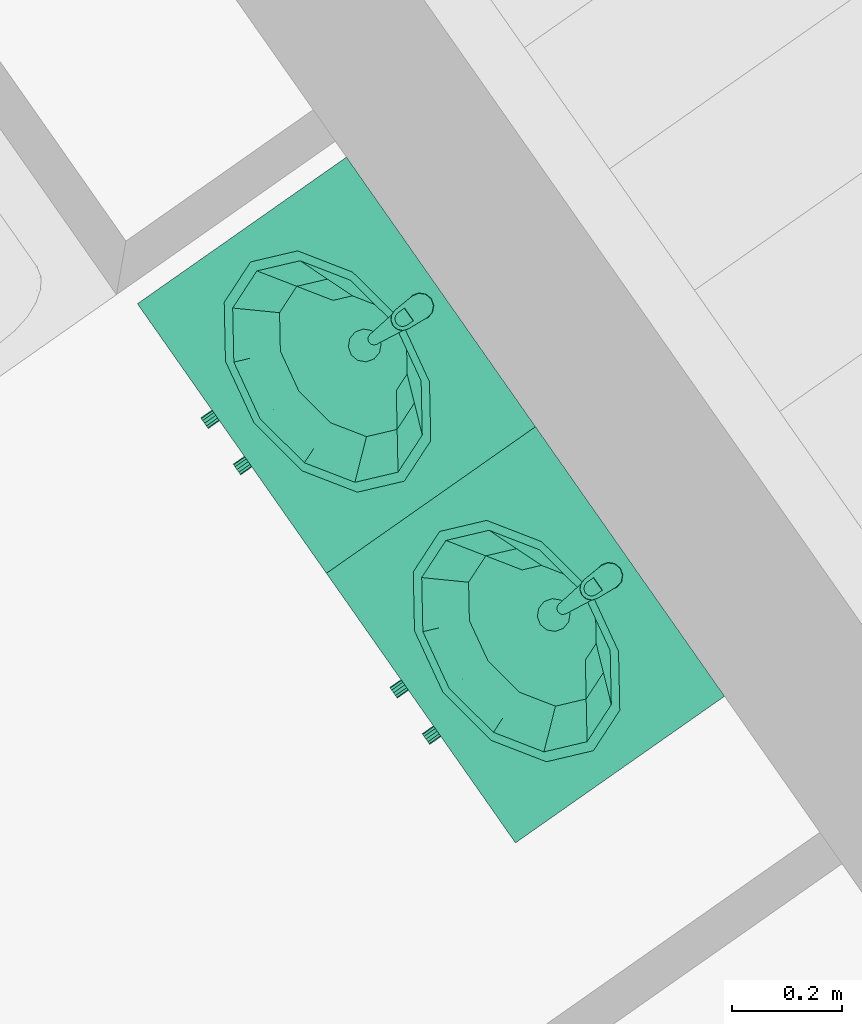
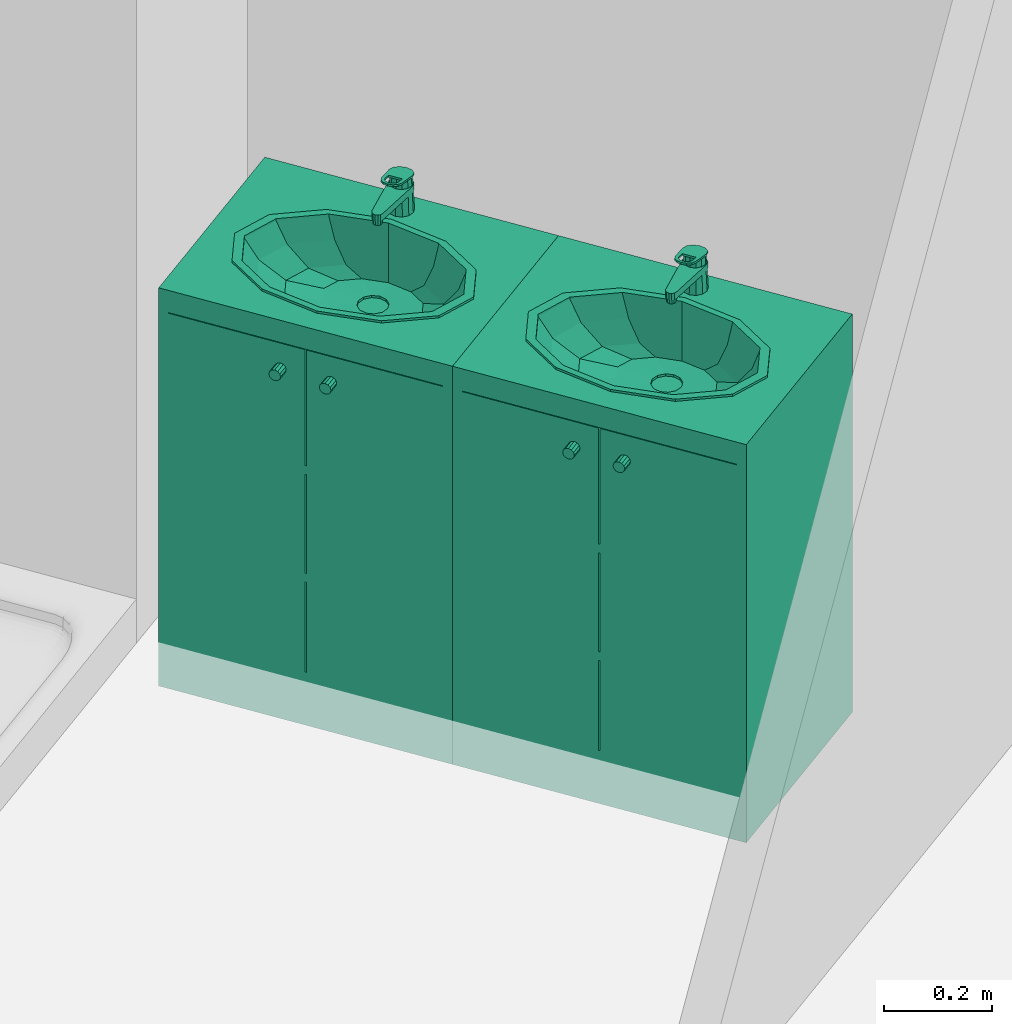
# One storey, part 136 of 195: 2 distribution elements.
"""IFC2X3 building model written with IfcOpenShell, lengths in metres."""

from ifc_helpers import new_model, entity, si_unit, converted_unit, derived_unit, money_unit, direction, frame, origin_with_axes, place, context, subcontext, project, spatial, open_shell, faceted_brep, surface_model, source, transform, mapped, type_object, element, save


model = new_model("IFC2X3")

# Units and contexts
model_context = context("Model", 3, precision=1e-05, world=origin_with_axes(), true_north=direction((0.0, 1.0)))
body_context = subcontext(model_context, "Body", "Model", "MODEL_VIEW")
ifc_project = project(units=[si_unit("LENGTHUNIT", "METRE"), si_unit("AREAUNIT", "SQUARE_METRE"), si_unit("VOLUMEUNIT", "CUBIC_METRE"), converted_unit("PLANEANGLEUNIT", "DEGREE", entity("IfcPlaneAngleMeasure", 0.0174532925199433), si_unit("PLANEANGLEUNIT", "RADIAN"), dimensions=[0, 0, 0, 0, 0, 0, 0]), money_unit("CHF"), converted_unit("TIMEUNIT", "Year", entity("IfcTimeMeasure", 31557600.0), si_unit("TIMEUNIT", "SECOND"), dimensions=[0, 0, 1, 0, 0, 0, 0]), si_unit("MASSUNIT", "GRAM", prefix="KILO"), si_unit("THERMODYNAMICTEMPERATUREUNIT", "DEGREE_CELSIUS"), si_unit("LUMINOUSINTENSITYUNIT", "LUMEN"), si_unit("ENERGYUNIT", "JOULE", prefix="MEGA"), derived_unit("THERMALCONDUCTANCEUNIT", [(si_unit("POWERUNIT", "WATT"), 1), (si_unit("LENGTHUNIT", "METRE"), -1), (si_unit("THERMODYNAMICTEMPERATUREUNIT", "KELVIN"), -1)]), derived_unit("SPECIFICHEATCAPACITYUNIT", [(si_unit("ENERGYUNIT", "JOULE"), 1), (si_unit("MASSUNIT", "GRAM", prefix="KILO"), -1), (si_unit("THERMODYNAMICTEMPERATUREUNIT", "KELVIN"), -1)]), derived_unit("MASSDENSITYUNIT", [(si_unit("MASSUNIT", "GRAM", prefix="KILO"), 1), (si_unit("VOLUMEUNIT", "CUBIC_METRE"), -1)])], contexts=[model_context])

# Site, building, storey
site_placement = place(None, origin_with_axes())
site = spatial("IfcSite", under=ifc_project, at=site_placement, Name="Site", CompositionType="ELEMENT")
building_placement = place(site_placement, origin_with_axes())
building = spatial("IfcBuilding", under=site, at=building_placement, Name="Bâtiment", CompositionType="ELEMENT")
storey_placement = place(building_placement, origin_with_axes())
storey = spatial("IfcBuildingStorey", under=building, at=storey_placement, Name="rdc", CompositionType="ELEMENT", Elevation=0.0)

# Distribution elements
distribution_element_type = type_object("IfcDistributionElementType", Name="Lavabo sur meuble 27")
shared_shape = source(origin_with_axes(), body_context, "Body", "SurfaceModel", [
    faceted_brep([(0.0, 0.0, 0.0), (0.0, 0.0, 0.1), (-0.6, 0.0, 0.1), (-0.6, 0.0, 0.0), (0.0, 0.4653441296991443, 0.0), (0.0, 0.4653441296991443, 0.1), (-0.6, 0.4653441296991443, 0.1), (-0.6, 0.4653441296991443, 0.0)], [[[0, 1, 2, 3]], [[4, 5, 1, 0]], [[1, 5, 6, 2]], [[3, 2, 6, 7]], [[0, 3, 7, 4]], [[7, 6, 5, 4]]]),
    faceted_brep([(0.0, 0.0, 0.1), (0.0, 0.0, 0.12), (-0.02, 0.0, 0.12), (-0.02, 0.0, 0.1), (0.0, 0.4653441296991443, 0.1), (0.0, 0.4653441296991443, 0.12), (-0.02, 0.4653441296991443, 0.12), (-0.58, 0.4653441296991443, 0.12), (-0.6, 0.4653441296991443, 0.12), (-0.6, 0.0, 0.12), (-0.58, 0.0, 0.12), (-0.58, 0.0, 0.1), (-0.6, 0.0, 0.1), (-0.6, 0.4653441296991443, 0.1), (-0.58, 0.4653441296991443, 0.1), (-0.02, 0.4653441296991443, 0.1)], [[[0, 1, 2, 3]], [[4, 5, 1, 0]], [[1, 5, 6, 7, 8, 9, 10, 2]], [[3, 2, 10, 11]], [[0, 3, 11, 12, 13, 14, 15, 4]], [[15, 6, 5, 4]], [[14, 7, 6, 15]], [[13, 8, 7, 14]], [[12, 9, 8, 13]], [[11, 10, 9, 12]]]),
    faceted_brep([(0.0, 0.0, 0.12), (0.0, 0.0, 0.85), (-0.02, 0.0, 0.85), (-0.02, 0.0, 0.12), (0.0, 0.4653441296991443, 0.12), (0.0, 0.4653441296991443, 0.85), (-0.6, 0.4653441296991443, 0.85), (-0.6, 0.0, 0.85), (-0.58, 0.0, 0.85), (-0.58, 0.4453441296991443, 0.85), (-0.02, 0.4453441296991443, 0.85), (-0.02, 0.4453441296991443, 0.12), (-0.58, 0.4453441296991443, 0.12), (-0.58, 0.0, 0.12), (-0.6, 0.0, 0.12), (-0.6, 0.4653441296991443, 0.12)], [[[0, 1, 2, 3]], [[4, 5, 1, 0]], [[1, 5, 6, 7, 8, 9, 10, 2]], [[3, 2, 10, 11]], [[0, 3, 11, 12, 13, 14, 15, 4]], [[15, 6, 5, 4]], [[14, 7, 6, 15]], [[13, 8, 7, 14]], [[12, 9, 8, 13]], [[11, 10, 9, 12]]]),
    faceted_brep([(-0.58, 0.0, 0.3233333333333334), (-0.58, 0.0, 0.3433333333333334), (-0.58, 0.4453441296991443, 0.3433333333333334), (-0.58, 0.4453441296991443, 0.3233333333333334), (-0.02, 0.0, 0.3233333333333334), (-0.02, 0.0, 0.3433333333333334), (-0.02, 0.4453441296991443, 0.3433333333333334), (-0.02, 0.4453441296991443, 0.3233333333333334)], [[[0, 1, 2, 3]], [[4, 5, 1, 0]], [[1, 5, 6, 2]], [[3, 2, 6, 7]], [[0, 3, 7, 4]], [[7, 6, 5, 4]]]),
    faceted_brep([(-0.58, 0.0, 0.5666666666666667), (-0.58, 0.0, 0.5866666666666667), (-0.58, 0.4453441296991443, 0.5866666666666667), (-0.58, 0.4453441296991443, 0.5666666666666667), (-0.02, 0.0, 0.5666666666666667), (-0.02, 0.0, 0.5866666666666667), (-0.02, 0.4453441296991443, 0.5866666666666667), (-0.02, 0.4453441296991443, 0.5666666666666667)], [[[0, 1, 2, 3]], [[4, 5, 1, 0]], [[1, 5, 6, 2]], [[3, 2, 6, 7]], [[0, 3, 7, 4]], [[7, 6, 5, 4]]]),
    faceted_brep([(0.0, 0.4653441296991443, 0.85), (0.0, 0.0, 0.85), (-0.6, 0.0, 0.85), (-0.6, 0.4653441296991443, 0.85), (-0.4124999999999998, 0.08276825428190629, 0.85), (-0.3, 0.06267206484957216, 0.85), (-0.1874999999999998, 0.08276825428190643, 0.85), (-0.1051442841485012, 0.1376720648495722, 0.85), (-0.07499999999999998, 0.2126720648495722, 0.85), (-0.1051442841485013, 0.2876720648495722, 0.85), (-0.1875000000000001, 0.342575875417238, 0.85), (-0.3, 0.3626720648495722, 0.85), (-0.4125, 0.3425758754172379, 0.85), (-0.4948557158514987, 0.2876720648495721, 0.85), (-0.525, 0.2126720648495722, 0.85), (-0.4948557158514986, 0.137672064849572, 0.85), (0.0, 0.4653441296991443, 0.9), (0.0, 0.0, 0.9), (-0.6, 0.0, 0.9), (-0.6, 0.4653441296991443, 0.9), (-0.3, 0.06267206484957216, 0.9), (-0.4124999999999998, 0.08276825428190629, 0.9), (-0.1874999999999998, 0.08276825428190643, 0.9), (-0.1051442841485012, 0.1376720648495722, 0.9), (-0.07499999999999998, 0.2126720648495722, 0.9), (-0.1051442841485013, 0.2876720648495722, 0.9), (-0.1875000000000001, 0.342575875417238, 0.9), (-0.3, 0.3626720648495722, 0.9), (-0.4125, 0.3425758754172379, 0.9), (-0.4948557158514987, 0.2876720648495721, 0.9), (-0.525, 0.2126720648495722, 0.9), (-0.4948557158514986, 0.137672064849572, 0.9)], [[[0, 1, 2, 3], [4, 5, 6, 7, 8, 9, 10, 11, 12, 13, 14, 15]], [[1, 0, 16, 17]], [[2, 1, 17, 18]], [[3, 2, 18, 19]], [[0, 3, 19, 16]], [[20, 5, 4, 21]], [[22, 6, 5, 20]], [[23, 7, 6, 22]], [[24, 8, 7, 23]], [[25, 9, 8, 24]], [[26, 10, 9, 25]], [[27, 11, 10, 26]], [[28, 12, 11, 27]], [[29, 13, 12, 28]], [[30, 14, 13, 29]], [[31, 15, 14, 30]], [[21, 4, 15, 31]], [[18, 17, 16, 19], [28, 27, 26, 25, 24, 23, 22, 20, 21, 31, 30, 29]]]),
    faceted_brep([(-0.544, 0.2126720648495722, 0.905), (-0.511310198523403, 0.2943684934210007, 0.905), (-0.511310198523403, 0.2943684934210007, 0.9), (-0.544, 0.2126720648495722, 0.9), (-0.5113101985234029, 0.1309756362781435, 0.905), (-0.4219999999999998, 0.07116969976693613, 0.905), (-0.3, 0.04927920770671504, 0.905), (-0.1779999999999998, 0.07116969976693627, 0.905), (-0.08868980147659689, 0.1309756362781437, 0.905), (-0.05599999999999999, 0.2126720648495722, 0.905), (-0.088689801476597, 0.2943684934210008, 0.905), (-0.178, 0.3541744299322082, 0.905), (-0.3, 0.3760649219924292, 0.905), (-0.422, 0.3541744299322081, 0.905), (-0.524, 0.2126720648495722, 0.905), (-0.4939896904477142, 0.2876720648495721, 0.905), (-0.412, 0.3425758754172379, 0.905), (-0.3, 0.3626720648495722, 0.905), (-0.1880000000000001, 0.342575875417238, 0.905), (-0.1060103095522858, 0.2876720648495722, 0.905), (-0.07599999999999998, 0.2126720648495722, 0.905), (-0.1060103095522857, 0.1376720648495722, 0.905), (-0.1879999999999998, 0.08276825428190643, 0.905), (-0.3, 0.06267206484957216, 0.905), (-0.4119999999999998, 0.08276825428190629, 0.905), (-0.4939896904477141, 0.137672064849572, 0.905), (-0.422, 0.3541744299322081, 0.9), (-0.3, 0.3760649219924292, 0.9), (-0.178, 0.3541744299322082, 0.9), (-0.088689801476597, 0.2943684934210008, 0.9), (-0.05599999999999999, 0.2126720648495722, 0.9), (-0.08868980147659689, 0.1309756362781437, 0.9), (-0.1779999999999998, 0.07116969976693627, 0.9), (-0.3, 0.04927920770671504, 0.9), (-0.4219999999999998, 0.07116969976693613, 0.9), (-0.5113101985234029, 0.1309756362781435, 0.9), (-0.524, 0.2126720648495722, 0.9), (-0.4939896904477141, 0.137672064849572, 0.9), (-0.4119999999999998, 0.08276825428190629, 0.9), (-0.3, 0.06267206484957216, 0.9), (-0.1879999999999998, 0.08276825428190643, 0.9), (-0.1060103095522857, 0.1376720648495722, 0.9), (-0.07599999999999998, 0.2126720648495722, 0.9), (-0.1060103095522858, 0.2876720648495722, 0.9), (-0.1880000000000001, 0.342575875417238, 0.9), (-0.3, 0.3626720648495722, 0.9), (-0.412, 0.3425758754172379, 0.9), (-0.4939896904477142, 0.2876720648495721, 0.9)], [[[0, 1, 2, 3]], [[0, 4, 5, 6, 7, 8, 9, 10, 11, 12, 13, 1], [14, 15, 16, 17, 18, 19, 20, 21, 22, 23, 24, 25]], [[1, 13, 26, 2]], [[3, 2, 26, 27, 28, 29, 30, 31, 32, 33, 34, 35], [36, 37, 38, 39, 40, 41, 42, 43, 44, 45, 46, 47]], [[4, 0, 3, 35]], [[5, 4, 35, 34]], [[6, 5, 34, 33]], [[7, 6, 33, 32]], [[8, 7, 32, 31]], [[9, 8, 31, 30]], [[10, 9, 30, 29]], [[11, 10, 29, 28]], [[12, 11, 28, 27]], [[13, 12, 27, 26]], [[15, 14, 36, 47]], [[16, 15, 47, 46]], [[17, 16, 46, 45]], [[18, 17, 45, 44]], [[19, 18, 44, 43]], [[20, 19, 43, 42]], [[21, 20, 42, 41]], [[22, 21, 41, 40]], [[23, 22, 40, 39]], [[24, 23, 39, 38]], [[25, 24, 38, 37]], [[14, 25, 37, 36]]]),
    surface_model("IfcShellBasedSurfaceModel", [(-0.3, 0.3626720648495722, 0.9), (-0.412, 0.342575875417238, 0.9), (-0.4008, 0.3445854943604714, 0.848), (-0.3, 0.3626720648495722, 0.848), (-0.4939896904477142, 0.2876720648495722, 0.9), (-0.4745907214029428, 0.2951720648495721, 0.848), (-0.1879999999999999, 0.3425758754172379, 0.9), (-0.1991999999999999, 0.3445854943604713, 0.848), (-0.524, 0.2126720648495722, 0.9), (-0.5016, 0.2276720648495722, 0.848), (-0.1060103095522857, 0.2876720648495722, 0.9), (-0.1254092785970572, 0.2951720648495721, 0.848), (-0.4939896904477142, 0.1376720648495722, 0.9), (-0.4745907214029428, 0.1601720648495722, 0.848), (-0.07599999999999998, 0.2126720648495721, 0.9), (-0.09839999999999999, 0.2276720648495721, 0.848), (-0.412, 0.08276825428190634, 0.9), (-0.4008, 0.1107586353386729, 0.848), (-0.1060103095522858, 0.1376720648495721, 0.9), (-0.1254092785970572, 0.1601720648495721, 0.848), (-0.3, 0.06267206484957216, 0.9), (-0.3, 0.09267206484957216, 0.848), (-0.1879999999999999, 0.08276825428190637, 0.9), (-0.1992, 0.110758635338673, 0.848)], [open_shell([[[0, 1, 2, 3]], [[1, 4, 5, 2]], [[6, 0, 3, 7]], [[4, 8, 9, 5]], [[10, 6, 7, 11]], [[8, 12, 13, 9]], [[14, 10, 11, 15]], [[12, 16, 17, 13]], [[18, 14, 15, 19]], [[16, 20, 21, 17]], [[22, 18, 19, 23]], [[20, 22, 23, 21]]])]),
    surface_model("IfcShellBasedSurfaceModel", [(-0.3, 0.3626720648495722, 0.848), (-0.4008, 0.3445854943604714, 0.848), (-0.379632, 0.3483836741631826, 0.7959999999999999), (-0.3, 0.3626720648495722, 0.7959999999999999), (-0.4745907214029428, 0.2951720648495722, 0.848), (-0.4379266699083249, 0.3093470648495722, 0.7959999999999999), (-0.1991999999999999, 0.3445854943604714, 0.848), (-0.2203679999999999, 0.3483836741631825, 0.7959999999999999), (-0.5016, 0.2276720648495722, 0.848), (-0.459264, 0.2560220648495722, 0.7959999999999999), (-0.1254092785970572, 0.2951720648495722, 0.848), (-0.1620733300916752, 0.3093470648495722, 0.7959999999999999), (-0.4745907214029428, 0.1601720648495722, 0.848), (-0.4379266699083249, 0.2026970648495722, 0.7959999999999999), (-0.09839999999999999, 0.2276720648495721, 0.848), (-0.140736, 0.2560220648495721, 0.7959999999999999), (-0.4008, 0.1107586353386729, 0.848), (-0.379632, 0.1636604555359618, 0.7959999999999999), (-0.1254092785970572, 0.1601720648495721, 0.848), (-0.1620733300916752, 0.2026970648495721, 0.7959999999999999), (-0.3, 0.09267206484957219, 0.848), (-0.3, 0.1493720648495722, 0.7959999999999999), (-0.1992, 0.110758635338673, 0.848), (-0.220368, 0.1636604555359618, 0.7959999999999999)], [open_shell([[[0, 1, 2, 3]], [[1, 4, 5, 2]], [[6, 0, 3, 7]], [[4, 8, 9, 5]], [[10, 6, 7, 11]], [[8, 12, 13, 9]], [[14, 10, 11, 15]], [[12, 16, 17, 13]], [[18, 14, 15, 19]], [[16, 20, 21, 17]], [[22, 18, 19, 23]], [[20, 22, 23, 21]]])]),
    surface_model("IfcShellBasedSurfaceModel", [(-0.3, 0.3626720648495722, 0.7959999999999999), (-0.379632, 0.3483836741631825, 0.7959999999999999), (-0.35016816, 0.3536703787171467, 0.7699999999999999), (-0.3, 0.3626720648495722, 0.7699999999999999), (-0.4379266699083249, 0.3093470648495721, 0.7959999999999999), (-0.3868938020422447, 0.3290773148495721, 0.7699999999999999), (-0.2203679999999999, 0.3483836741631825, 0.7959999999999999), (-0.2498318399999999, 0.3536703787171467, 0.7699999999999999), (-0.459264, 0.2560220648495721, 0.7959999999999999), (-0.40033632, 0.2954825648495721, 0.7699999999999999), (-0.1620733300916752, 0.3093470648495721, 0.7959999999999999), (-0.2131061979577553, 0.3290773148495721, 0.7699999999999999), (-0.4379266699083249, 0.2026970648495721, 0.7959999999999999), (-0.3868938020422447, 0.2618878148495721, 0.7699999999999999), (-0.140736, 0.2560220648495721, 0.7959999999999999), (-0.19966368, 0.2954825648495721, 0.7699999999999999), (-0.379632, 0.1636604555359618, 0.7959999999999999), (-0.35016816, 0.2372947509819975, 0.7699999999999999), (-0.1620733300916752, 0.2026970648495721, 0.7959999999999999), (-0.2131061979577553, 0.2618878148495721, 0.7699999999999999), (-0.3, 0.1493720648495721, 0.7959999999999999), (-0.3, 0.2282930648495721, 0.7699999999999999), (-0.220368, 0.1636604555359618, 0.7959999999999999), (-0.24983184, 0.2372947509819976, 0.7699999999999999)], [open_shell([[[0, 1, 2, 3]], [[1, 4, 5, 2]], [[6, 0, 3, 7]], [[4, 8, 9, 5]], [[10, 6, 7, 11]], [[8, 12, 13, 9]], [[14, 10, 11, 15]], [[12, 16, 17, 13]], [[18, 14, 15, 19]], [[16, 20, 21, 17]], [[22, 18, 19, 23]], [[20, 22, 23, 21]]])]),
    surface_model("IfcShellBasedSurfaceModel", [(-0.3, 0.3626720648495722, 0.7699999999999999), (-0.35016816, 0.3536703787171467, 0.7699999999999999), (-0.315, 0.3214633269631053, 0.7629999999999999), (-0.3259807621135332, 0.3104825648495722, 0.7629999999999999), (-0.3, 0.3254825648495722, 0.7629999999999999), (-0.3868938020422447, 0.3290773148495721, 0.7699999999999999), (-0.2498318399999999, 0.3536703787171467, 0.7699999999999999), (-0.33, 0.2954825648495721, 0.7629999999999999), (-0.285, 0.3214633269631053, 0.7629999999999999), (-0.40033632, 0.2954825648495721, 0.7699999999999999), (-0.2131061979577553, 0.3290773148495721, 0.7699999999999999), (-0.3259807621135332, 0.2804825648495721, 0.7629999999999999), (-0.2740192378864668, 0.3104825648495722, 0.7629999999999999), (-0.3868938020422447, 0.2618878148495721, 0.7699999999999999), (-0.19966368, 0.2954825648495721, 0.7699999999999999), (-0.315, 0.269501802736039, 0.7629999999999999), (-0.27, 0.2954825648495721, 0.7629999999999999), (-0.35016816, 0.2372947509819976, 0.7699999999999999), (-0.2131061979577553, 0.2618878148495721, 0.7699999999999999), (-0.3, 0.2654825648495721, 0.7629999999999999), (-0.2740192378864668, 0.2804825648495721, 0.7629999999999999), (-0.3, 0.2282930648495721, 0.7699999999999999), (-0.24983184, 0.2372947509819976, 0.7699999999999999), (-0.285, 0.269501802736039, 0.7629999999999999)], [open_shell([[[0, 1, 2]], [[1, 3, 2]], [[0, 2, 4]], [[1, 5, 3]], [[6, 0, 4]], [[5, 7, 3]], [[6, 4, 8]], [[5, 9, 7]], [[10, 6, 8]], [[9, 11, 7]], [[10, 8, 12]], [[9, 13, 11]], [[14, 10, 12]], [[13, 15, 11]], [[14, 12, 16]], [[13, 17, 15]], [[18, 14, 16]], [[17, 19, 15]], [[18, 16, 20]], [[17, 21, 19]], [[22, 18, 20]], [[21, 23, 19]], [[22, 20, 23]], [[21, 22, 23]]])]),
    surface_model("IfcShellBasedSurfaceModel", [(-0.33, 0.2954825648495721, 0.763), (-0.3259807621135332, 0.3104825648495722, 0.763), (-0.3259807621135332, 0.3104825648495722, 0.758), (-0.33, 0.2954825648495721, 0.758), (-0.315, 0.3214633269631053, 0.763), (-0.315, 0.3214633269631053, 0.758), (-0.3, 0.3254825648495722, 0.758), (-0.285, 0.3214633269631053, 0.758), (-0.2740192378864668, 0.3104825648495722, 0.758), (-0.27, 0.2954825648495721, 0.758), (-0.2740192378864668, 0.2804825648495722, 0.758), (-0.285, 0.269501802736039, 0.758), (-0.3, 0.2654825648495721, 0.758), (-0.3149999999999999, 0.269501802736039, 0.758), (-0.3259807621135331, 0.2804825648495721, 0.758), (-0.3259807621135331, 0.2804825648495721, 0.763), (-0.3, 0.3254825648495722, 0.763), (-0.285, 0.3214633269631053, 0.763), (-0.2740192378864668, 0.3104825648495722, 0.763), (-0.27, 0.2954825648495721, 0.763), (-0.2740192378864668, 0.2804825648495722, 0.763), (-0.285, 0.269501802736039, 0.763), (-0.3, 0.2654825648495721, 0.763), (-0.3149999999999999, 0.269501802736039, 0.763)], [open_shell([[[0, 1, 2, 3]], [[1, 4, 5, 2]], [[3, 2, 5, 6, 7, 8, 9, 10, 11, 12, 13, 14]], [[15, 0, 3, 14]], [[4, 16, 6, 5]], [[16, 17, 7, 6]], [[17, 18, 8, 7]], [[18, 19, 9, 8]], [[19, 20, 10, 9]], [[20, 21, 11, 10]], [[21, 22, 12, 11]], [[22, 23, 13, 12]], [[23, 15, 14, 13]]])]),
    faceted_brep([(-0.3125, 0.4406587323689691, 0.9), (-0.310587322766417, 0.4373458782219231, 0.976507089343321), (-0.3, 0.4402100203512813, 0.9759615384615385), (-0.3, 0.4440080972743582, 0.9), (-0.3216506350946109, 0.4315080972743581, 0.9), (-0.3182735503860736, 0.4295583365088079, 0.9779904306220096), (-0.321, 0.4190080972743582, 0.98), (-0.3181003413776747, 0.4085578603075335, 0.9819905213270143), (-0.3104141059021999, 0.400970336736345, 0.9834357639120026), (-0.3, 0.3982062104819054, 0.9839622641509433), (-0.2895858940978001, 0.400970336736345, 0.9834357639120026), (-0.2818996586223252, 0.4085578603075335, 0.9819905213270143), (-0.279, 0.4190080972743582, 0.98), (-0.2817264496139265, 0.4295583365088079, 0.9779904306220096), (-0.289412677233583, 0.4373458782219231, 0.976507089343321), (-0.2875, 0.4406587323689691, 0.9), (-0.278349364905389, 0.4315080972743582, 0.9), (-0.275, 0.4190080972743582, 0.9), (-0.278349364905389, 0.4065080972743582, 0.9), (-0.2875, 0.3973574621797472, 0.9), (-0.3, 0.3940080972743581, 0.9), (-0.3125, 0.3973574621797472, 0.9), (-0.3216506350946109, 0.4065080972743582, 0.9), (-0.325, 0.4190080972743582, 0.9)], [[[0, 1, 2, 3]], [[4, 5, 1, 0]], [[1, 5, 6, 7, 8, 9, 10, 11, 12, 13, 14, 2]], [[3, 2, 14, 15]], [[0, 3, 15, 16, 17, 18, 19, 20, 21, 22, 23, 4]], [[23, 6, 5, 4]], [[22, 7, 6, 23]], [[21, 8, 7, 22]], [[20, 9, 8, 21]], [[19, 10, 9, 20]], [[18, 11, 10, 19]], [[17, 12, 11, 18]], [[16, 13, 12, 17]], [[15, 14, 13, 16]]]),
    faceted_brep([(-0.309, 0.3160080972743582, 0.935), (-0.309, 0.3160080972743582, 0.9450000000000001), (-0.3077942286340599, 0.3205080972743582, 0.9450000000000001), (-0.3077942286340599, 0.3205080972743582, 0.935), (-0.3077942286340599, 0.3115080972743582, 0.935), (-0.3077942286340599, 0.3115080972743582, 0.9450000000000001), (-0.3045, 0.3082138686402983, 0.9450000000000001), (-0.3, 0.3070080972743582, 0.9450000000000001), (-0.2955, 0.3082138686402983, 0.9450000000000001), (-0.2922057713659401, 0.3115080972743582, 0.9450000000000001), (-0.291, 0.3160080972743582, 0.9450000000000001), (-0.2922057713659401, 0.3205080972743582, 0.9450000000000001), (-0.2955, 0.3238023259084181, 0.9450000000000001), (-0.3, 0.3250080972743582, 0.9450000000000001), (-0.3045, 0.3238023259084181, 0.9450000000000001), (-0.3045, 0.3238023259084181, 0.935), (-0.3, 0.3250080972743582, 0.935), (-0.2955, 0.3238023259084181, 0.935), (-0.2922057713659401, 0.3205080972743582, 0.935), (-0.291, 0.3160080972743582, 0.935), (-0.2922057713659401, 0.3115080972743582, 0.935), (-0.2955, 0.3082138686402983, 0.935), (-0.3, 0.3070080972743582, 0.935), (-0.3045, 0.3082138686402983, 0.935)], [[[0, 1, 2, 3]], [[4, 5, 1, 0]], [[1, 5, 6, 7, 8, 9, 10, 11, 12, 13, 14, 2]], [[3, 2, 14, 15]], [[0, 3, 15, 16, 17, 18, 19, 20, 21, 22, 23, 4]], [[23, 6, 5, 4]], [[22, 7, 6, 23]], [[21, 8, 7, 22]], [[20, 9, 8, 21]], [[19, 10, 9, 20]], [[18, 11, 10, 19]], [[17, 12, 11, 18]], [[16, 13, 12, 17]], [[15, 14, 13, 16]]]),
    faceted_brep([(-0.2871282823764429, 0.439264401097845, 0.9600000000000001), (-0.300000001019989, 0.44300807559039, 0.9600000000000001), (-0.3128717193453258, 0.4392644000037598, 0.9600000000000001), (-0.3217278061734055, 0.4292013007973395, 0.9600000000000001), (-0.3238053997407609, 0.4159581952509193, 0.9600000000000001), (-0.310912, 0.3146197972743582, 0.9600000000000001), (-0.309028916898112, 0.3097249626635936, 0.9600000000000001), (-0.3050933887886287, 0.3062584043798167, 0.9600000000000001), (-0.300000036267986, 0.305008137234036, 0.9600000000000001), (-0.2949066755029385, 0.3062583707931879, 0.9600000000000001), (-0.2909711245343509, 0.3097249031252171, 0.9600000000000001), (-0.2890880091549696, 0.3146197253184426, 0.9600000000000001), (-0.2761946, 0.4159581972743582, 0.9600000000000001), (-0.2782721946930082, 0.4292013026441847, 0.9600000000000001), (-0.311, 0.4380606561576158, 0.9600000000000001), (-0.3, 0.4410080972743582, 0.9600000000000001), (-0.289, 0.4380606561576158, 0.9600000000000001), (-0.2809474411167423, 0.4300080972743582, 0.9600000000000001), (-0.278, 0.4190080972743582, 0.9600000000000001), (-0.2809474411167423, 0.4080080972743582, 0.9600000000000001), (-0.289, 0.3999555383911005, 0.9600000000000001), (-0.3, 0.3970080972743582, 0.9600000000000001), (-0.3109999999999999, 0.3999555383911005, 0.9600000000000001), (-0.3190525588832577, 0.4080080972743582, 0.9600000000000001), (-0.322, 0.4190080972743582, 0.9600000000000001), (-0.3190525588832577, 0.4300080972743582, 0.9600000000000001), (-0.2871282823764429, 0.439264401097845, 0.9450000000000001), (-0.300000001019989, 0.44300807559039, 0.9450000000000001), (-0.3128717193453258, 0.4392644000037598, 0.9450000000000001), (-0.3217278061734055, 0.4292013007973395, 0.9450000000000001), (-0.3238053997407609, 0.4159581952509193, 0.9450000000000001), (-0.310912, 0.3146197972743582, 0.9450000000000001), (-0.309028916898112, 0.3097249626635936, 0.9450000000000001), (-0.3050933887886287, 0.3062584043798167, 0.9450000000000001), (-0.300000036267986, 0.305008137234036, 0.9450000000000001), (-0.2949066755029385, 0.3062583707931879, 0.9450000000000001), (-0.2909711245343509, 0.3097249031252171, 0.9450000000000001), (-0.2890880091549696, 0.3146197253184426, 0.9450000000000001), (-0.2761946, 0.4159581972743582, 0.9450000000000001), (-0.2782721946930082, 0.4292013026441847, 0.9450000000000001), (-0.3, 0.4417580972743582, 0.9450000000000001), (-0.311375, 0.4387101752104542, 0.9450000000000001), (-0.288625, 0.4387101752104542, 0.9450000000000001), (-0.280297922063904, 0.4303830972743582, 0.9450000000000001), (-0.2772499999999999, 0.4190080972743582, 0.9450000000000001), (-0.280297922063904, 0.4076330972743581, 0.9450000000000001), (-0.288625, 0.3993060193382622, 0.9450000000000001), (-0.3, 0.3962580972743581, 0.9450000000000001), (-0.311375, 0.3993060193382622, 0.9450000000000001), (-0.319702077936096, 0.4076330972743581, 0.9450000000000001), (-0.32275, 0.4190080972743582, 0.9450000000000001), (-0.319702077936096, 0.4303830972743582, 0.9450000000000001)], [[[0, 1, 2, 3, 4, 5, 6, 7, 8, 9, 10, 11, 12, 13], [14, 15, 16, 17, 18, 19, 20, 21, 22, 23, 24, 25]], [[26, 27, 1, 0]], [[27, 28, 2, 1]], [[28, 29, 3, 2]], [[29, 30, 4, 3]], [[30, 31, 5, 4]], [[31, 32, 6, 5]], [[32, 33, 7, 6]], [[33, 34, 8, 7]], [[34, 35, 9, 8]], [[35, 36, 10, 9]], [[36, 37, 11, 10]], [[37, 38, 12, 11]], [[38, 39, 13, 12]], [[39, 26, 0, 13]], [[40, 15, 14, 41]], [[42, 16, 15, 40]], [[16, 42, 43, 17]], [[17, 43, 44, 18]], [[18, 44, 45, 19]], [[19, 45, 46, 20]], [[20, 46, 47, 21]], [[48, 22, 21, 47]], [[49, 23, 22, 48]], [[50, 24, 23, 49]], [[51, 25, 24, 50]], [[41, 14, 25, 51]], [[34, 33, 32, 31, 30, 29, 28, 27, 26, 39, 38, 37, 36, 35], [48, 47, 46, 45, 44, 43, 42, 40, 41, 51, 50, 49]]]),
    faceted_brep([(-0.323893, 0.4173155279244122, 0.9803223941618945), (-0.323893, 0.4180639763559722, 0.9842517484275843), (-0.3212964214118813, 0.4305312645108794, 0.9818770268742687), (-0.3212964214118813, 0.4297828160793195, 0.9779476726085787), (-0.3209459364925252, 0.377171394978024, 0.9879688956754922), (-0.3209459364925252, 0.377919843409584, 0.9918982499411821), (-0.317663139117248, 0.3682421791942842, 0.9937416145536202), (-0.3100614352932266, 0.3612927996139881, 0.995065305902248), (-0.2999995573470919, 0.3587709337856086, 0.9955456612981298), (-0.289937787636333, 0.3612932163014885, 0.9950652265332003), (-0.2823363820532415, 0.3682429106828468, 0.9937414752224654), (-0.279054, 0.3779207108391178, 0.991898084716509), (-0.2761069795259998, 0.4180642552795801, 0.9842516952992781), (-0.2787037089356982, 0.4305315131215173, 0.9818769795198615), (-0.2875283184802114, 0.4398477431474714, 0.9801024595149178), (-0.3000001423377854, 0.4432885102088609, 0.9794470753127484), (-0.3124719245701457, 0.4398475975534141, 0.9801024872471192), (-0.314, 0.3942157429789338, 0.9887942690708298), (-0.286, 0.3942157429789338, 0.9887942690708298), (-0.286, 0.3794001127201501, 0.9916162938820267), (-0.2878756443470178, 0.3725237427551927, 0.9929260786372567), (-0.293, 0.3674898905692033, 0.9938849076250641), (-0.3, 0.3656473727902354, 0.9942358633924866), (-0.307, 0.3674898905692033, 0.9938849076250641), (-0.3121243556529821, 0.3725237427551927, 0.9929260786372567), (-0.314, 0.3794001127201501, 0.9916162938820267), (-0.3124719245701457, 0.4390991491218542, 0.9761731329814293), (-0.3000001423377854, 0.4425400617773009, 0.9755177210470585), (-0.2875283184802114, 0.4390992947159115, 0.976173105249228), (-0.2787037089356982, 0.4297830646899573, 0.9779476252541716), (-0.2761069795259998, 0.4173158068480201, 0.9803223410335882), (-0.279054, 0.3771722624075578, 0.9879687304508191), (-0.2823363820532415, 0.3674944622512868, 0.9898121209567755), (-0.289937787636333, 0.3605447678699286, 0.9911358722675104), (-0.2999995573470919, 0.3580224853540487, 0.9916163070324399), (-0.3100614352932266, 0.3605443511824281, 0.9911359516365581), (-0.317663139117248, 0.3674937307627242, 0.9898122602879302), (-0.314, 0.3934672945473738, 0.9848649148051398), (-0.314, 0.37865166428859, 0.9876869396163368), (-0.3121243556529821, 0.3717752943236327, 0.9889967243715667), (-0.307, 0.3667414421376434, 0.9899555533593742), (-0.3, 0.3648989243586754, 0.9903065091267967), (-0.293, 0.3667414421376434, 0.9899555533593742), (-0.2878756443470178, 0.3717752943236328, 0.9889967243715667), (-0.286, 0.37865166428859, 0.9876869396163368), (-0.286, 0.3934672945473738, 0.9848649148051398)], [[[0, 1, 2, 3]], [[4, 5, 1, 0]], [[1, 5, 6, 7, 8, 9, 10, 11, 12, 13, 14, 15, 16, 2], [17, 18, 19, 20, 21, 22, 23, 24, 25]], [[3, 2, 16, 26]], [[0, 3, 26, 27, 28, 29, 30, 31, 32, 33, 34, 35, 36, 4], [37, 38, 39, 40, 41, 42, 43, 44, 45]], [[36, 6, 5, 4]], [[35, 7, 6, 36]], [[34, 8, 7, 35]], [[33, 9, 8, 34]], [[32, 10, 9, 33]], [[31, 11, 10, 32]], [[30, 12, 11, 31]], [[29, 13, 12, 30]], [[28, 14, 13, 29]], [[27, 15, 14, 28]], [[26, 16, 15, 27]], [[45, 18, 17, 37]], [[44, 19, 18, 45]], [[43, 20, 19, 44]], [[42, 21, 20, 43]], [[41, 22, 21, 42]], [[40, 23, 22, 41]], [[39, 24, 23, 40]], [[38, 25, 24, 39]], [[37, 17, 25, 38]]]),
    surface_model("IfcShellBasedSurfaceModel", [(-0.001500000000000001, 0.0, 0.1015), (-0.2985, 0.0, 0.1015), (-0.2985, 0.0, 0.8485), (-0.001500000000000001, 0.0, 0.8485)], [open_shell([[[0, 1, 2, 3]]])]),
    faceted_brep([(-0.2588923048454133, 0.0, 0.7855), (-0.2605, 0.0, 0.7915), (-0.2588923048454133, 0.0, 0.7975), (-0.2545, 0.0, 0.8018923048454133), (-0.2485, 0.0, 0.8035), (-0.2425, 0.0, 0.8018923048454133), (-0.2381076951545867, 0.0, 0.7975), (-0.2365, 0.0, 0.7915), (-0.2381076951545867, 0.0, 0.7855), (-0.2425, 0.0, 0.7811076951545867), (-0.2485, 0.0, 0.7795), (-0.2545, 0.0, 0.7811076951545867), (-0.2588923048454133, -0.025, 0.7855), (-0.2605, -0.025, 0.7915), (-0.2588923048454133, -0.025, 0.7975), (-0.2545, -0.025, 0.8018923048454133), (-0.2485, -0.025, 0.8035), (-0.2425, -0.025, 0.8018923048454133), (-0.2381076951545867, -0.025, 0.7975), (-0.2365, -0.025, 0.7915), (-0.2381076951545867, -0.025, 0.7855), (-0.2425, -0.025, 0.7811076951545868), (-0.2485, -0.025, 0.7795), (-0.2545, -0.025, 0.7811076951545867)], [[[0, 1, 2, 3, 4, 5, 6, 7, 8, 9, 10, 11]], [[0, 12, 13, 1]], [[1, 13, 14, 2]], [[2, 14, 15, 3]], [[3, 15, 16, 4]], [[4, 16, 17, 5]], [[5, 17, 18, 6]], [[6, 18, 19, 7]], [[7, 19, 20, 8]], [[8, 20, 21, 9]], [[9, 21, 22, 10]], [[10, 22, 23, 11]], [[11, 23, 12, 0]], [[12, 23, 22, 21, 20, 19, 18, 17, 16, 15, 14, 13]]]),
    surface_model("IfcShellBasedSurfaceModel", [(-0.5985, 0.0, 0.1015), (-0.5985, 0.0, 0.8485), (-0.3015000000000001, 0.0, 0.8485), (-0.3015000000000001, 0.0, 0.1015)], [open_shell([[[0, 1, 2, 3]]])]),
    faceted_brep([(-0.3411076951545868, 0.0, 0.7855), (-0.3455, 0.0, 0.7811076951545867), (-0.3515, 0.0, 0.7795), (-0.3575, 0.0, 0.7811076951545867), (-0.3618923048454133, 0.0, 0.7855), (-0.3635, 0.0, 0.7915), (-0.3618923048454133, 0.0, 0.7975), (-0.3575, 0.0, 0.8018923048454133), (-0.3515, 0.0, 0.8035), (-0.3455, 0.0, 0.8018923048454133), (-0.3411076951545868, 0.0, 0.7975), (-0.3395, 0.0, 0.7915), (-0.3411076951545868, -0.025, 0.7855), (-0.3455, -0.025, 0.7811076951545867), (-0.3515, -0.025, 0.7795), (-0.3575, -0.025, 0.7811076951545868), (-0.3618923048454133, -0.025, 0.7855), (-0.3635, -0.025, 0.7915), (-0.3618923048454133, -0.025, 0.7975), (-0.3575, -0.025, 0.8018923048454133), (-0.3515, -0.025, 0.8035), (-0.3455, -0.025, 0.8018923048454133), (-0.3411076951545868, -0.025, 0.7975), (-0.3395, -0.025, 0.7915)], [[[0, 1, 2, 3, 4, 5, 6, 7, 8, 9, 10, 11]], [[1, 0, 12, 13]], [[2, 1, 13, 14]], [[3, 2, 14, 15]], [[4, 3, 15, 16]], [[5, 4, 16, 17]], [[6, 5, 17, 18]], [[7, 6, 18, 19]], [[8, 7, 19, 20]], [[9, 8, 20, 21]], [[10, 9, 21, 22]], [[11, 10, 22, 23]], [[0, 11, 23, 12]], [[12, 23, 22, 21, 20, 19, 18, 17, 16, 15, 14, 13]]]),
])
for number, where, z_axis, x_axis, name in (
    (1, (9554.55456959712, -1059.49558548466, 57.59999999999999), (0.0, 0.0, 1.0), (0.5741598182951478, -0.8187432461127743, 0.0), "Obj.-004"),
    (2, (9554.210073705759, -1059.004339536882, 57.59999999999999), (0.0, 0.0, 1.0), (0.5741598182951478, -0.8187432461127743, 0.0), "Obj.-004"),
):
    element("IfcDistributionElement", number, at=place(storey_placement, frame(where, z_axis=z_axis, x_axis=x_axis)), inside=storey, type_object=distribution_element_type, Name=name, context=body_context, shape_type="MappedRepresentation", body=[
        mapped(shared_shape, transform((0.0, 0.0, 0.0))),
    ])

save(model, "model.ifc")
